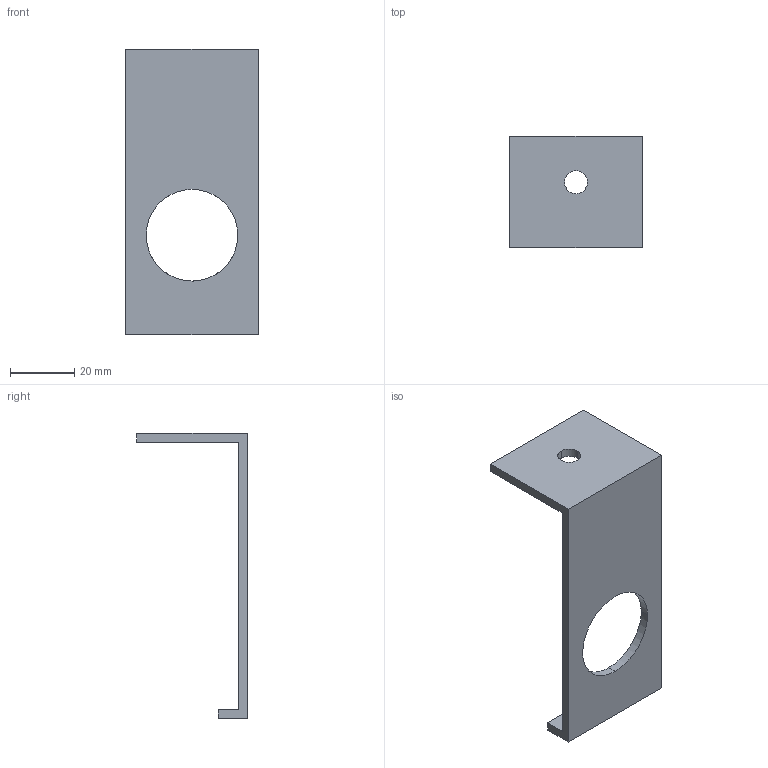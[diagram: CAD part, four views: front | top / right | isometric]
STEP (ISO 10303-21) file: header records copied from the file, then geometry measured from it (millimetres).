
FILE_DESCRIPTION(('TurboCAD Mac Pro'),'Build 980');
FILE_NAME('P5021-75.stp',' ',(''),(''),'ACIS Interop','IMSI','TurboCAD Mac Pro BY IMSI, INCORPORATED');
FILE_SCHEMA(('automotive_design'));
Length unit declared in the file: inch
Products named in the file (1): 1
Bounding box: 41.27 x 34.51 x 88.88 mm (x, y, z)
Volume: 12634.1 mm3; surface area: 10361.1 mm2
Topology: 1 solids, 1 shells, 18 faces, 48 edges, 32 vertices
Faces by surface type: plane 10, bspline 8
Entity records: 776 total; most frequent: CARTESIAN_POINT 203, ORIENTED_EDGE 96, DIRECTION 54, EDGE_CURVE 48, VERTEX_POINT 32, LINE 32, VECTOR 32, EDGE_LOOP 22
